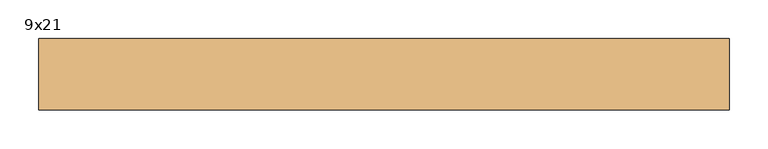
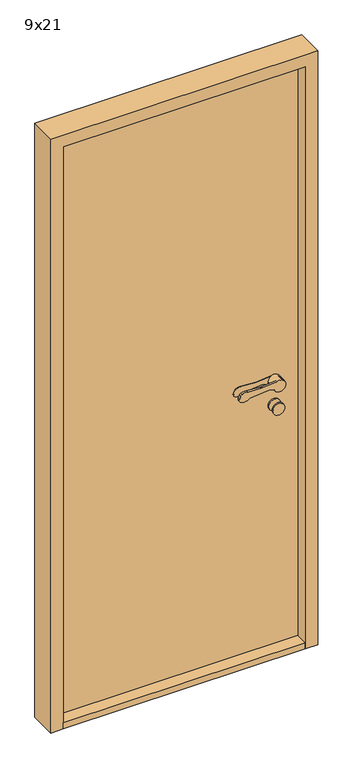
"""IFC4 building model written with IfcOpenShell, lengths in millimetres: door geometry, Innerdør Slett (Diplomat) : 9x21."""

from ifc_helpers import new_model, si_unit, point, frame, frame_2d, origin, origin_with_axes, place, context, project, spatial, polyline, circle_curve, trimmed, segment, composite_curve, outline, extrude, source, transform, mapped, element, save
from ifc_brep_helpers import plane_surface, cylinder_surface, revolved_surface, advanced_brep


def door_9x21_3038e881(model_context):
    return source(origin(), model_context, "Body", "SolidModel", [
        advanced_brep(
        [(343.9611305, 60.0, 949.1175955), (358.3841161, 60.0, 942.6204086), (396.379633, 60.0, 951.3474568), (367.2687793, 60.0, 969.1517356), (318.6891233, 60.0, 964.26032), (313.6202158, 60.0, 964.1804415), (268.8963175, 60.0, 967.2639242), (250.3175669, 60.0, 964.8810513), (245.505009, 60.0, 959.9624074), (241.8691983, 60.0, 951.8913379), (246.721536, 60.0, 938.7393398), (276.0476109, 60.0, 943.6260011), (338.8520664, 60.0, 949.9496913), (318.6891233, 67.1084716, 964.26032), (367.2687793, 67.1084716, 969.1517356), (356.379633, 67.1084716, 951.3474568), (358.3841161, 67.1084716, 942.6204086), (343.9611305, 67.1084716, 949.1175955), (338.8520664, 67.1084716, 949.9496913), (276.0476109, 67.1084716, 943.6260011), (246.721536, 67.1084716, 938.7393398), (241.8691983, 67.1084716, 951.8913379), (245.505009, 67.1084716, 959.9624074), (250.3175669, 67.1084716, 964.8810513), (268.8963175, 67.1084716, 967.2639242), (313.6202158, 67.1084716, 964.1804415), (396.379633, 95.0, 951.3474568), (356.379633, 95.0, 951.3474568)],
        [
            (0, 1),
            (1, 2, circle_curve(frame((376.379633, 60.0, 951.3474568), z_axis=(0.0, -1.0, 0.0), x_axis=(-1.0, 0.0, 0.0)), 20.0)),
            (2, 3, circle_curve(frame((376.379633, 60.0, 951.3474568), z_axis=(0.0, -1.0, 0.0), x_axis=(-1.0, 0.0, 0.0)), 20.0)),
            (3, 4),
            (4, 5, circle_curve(frame((315.683663, 60.0, 994.1093938), z_axis=(0.0, 1.0, 0.0), x_axis=(-0.9949691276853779, 0.0, -0.10018200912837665)), 30.0)),
            (5, 6),
            (6, 7, circle_curve(frame((263.2326797, 60.0, 937.8033877), z_axis=(0.0, -1.0, 0.0), x_axis=(-0.9949691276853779, 0.0, -0.10018200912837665)), 30.0)),
            (7, 8, circle_curve(frame((254.6226045, 60.0, 955.8551634), z_axis=(0.0, -1.0, 0.0), x_axis=(-0.9949691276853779, 0.0, -0.10018200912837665)), 10.0)),
            (8, 9),
            (9, 10, circle_curve(frame((250.9867937, 60.0, 947.7840939), z_axis=(0.0, -1.0, 0.0), x_axis=(-0.9949691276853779, 0.0, -0.10018200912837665)), 10.0)),
            (10, 11, circle_curve(frame((257.8569644, 60.0, 962.352734), z_axis=(0.0, -1.0, 0.0), x_axis=(-0.9949691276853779, 0.0, -0.10018200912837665)), 26.1072815)),
            (11, 12),
            (12, 0, circle_curve(frame((339.8538865, 60.0, 940.0), z_axis=(0.0, 1.0, 0.0), x_axis=(-0.9949691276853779, 0.0, -0.10018200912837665)), 10.0)),
            (13, 14),
            (14, 15, circle_curve(frame((376.379633, 67.1084716, 951.3474568), z_axis=(0.0, -1.0, 0.0), x_axis=(-1.0, 0.0, 0.0)), 20.0)),
            (15, 16, circle_curve(frame((376.379633, 67.1084716, 951.3474568), z_axis=(0.0, -1.0, 0.0), x_axis=(-1.0, 0.0, 0.0)), 20.0)),
            (16, 17),
            (17, 18, circle_curve(frame((339.8538865, 67.1084716, 940.0), z_axis=(0.0, -1.0, 0.0), x_axis=(-0.9949691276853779, 0.0, -0.10018200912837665)), 10.0)),
            (18, 19),
            (19, 20, circle_curve(frame((257.8569644, 67.1084716, 962.352734), z_axis=(0.0, 1.0, 0.0), x_axis=(-0.9949691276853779, 0.0, -0.10018200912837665)), 26.1072815)),
            (20, 21, circle_curve(frame((250.9867937, 67.1084716, 947.7840939), z_axis=(0.0, 1.0, 0.0), x_axis=(-0.9949691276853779, 0.0, -0.10018200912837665)), 10.0)),
            (21, 22),
            (22, 23, circle_curve(frame((254.6226045, 67.1084716, 955.8551634), z_axis=(0.0, 1.0, 0.0), x_axis=(-0.9949691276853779, 0.0, -0.10018200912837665)), 10.0)),
            (23, 24, circle_curve(frame((263.2326797, 67.1084716, 937.8033877), z_axis=(0.0, 1.0, 0.0), x_axis=(-0.9949691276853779, 0.0, -0.10018200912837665)), 30.0)),
            (24, 25),
            (25, 13, circle_curve(frame((315.683663, 67.1084716, 994.1093938), z_axis=(0.0, -1.0, 0.0), x_axis=(-0.9949691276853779, 0.0, -0.10018200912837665)), 30.0)),
            (3, 14),
            (13, 4),
            (16, 1),
            (0, 17),
            (12, 18),
            (11, 19),
            (10, 20),
            (9, 21),
            (8, 22),
            (7, 23),
            (6, 24),
            (5, 25),
            (26, 27, circle_curve(frame((376.379633, 95.0, 951.3474568), z_axis=(0.0, 1.0, 0.0), x_axis=(-1.0, 0.0, 0.0)), 20.0)),
            (27, 26, circle_curve(frame((376.379633, 95.0, 951.3474568), z_axis=(0.0, 1.0, 0.0), x_axis=(-1.0, 0.0, 0.0)), 20.0)),
            (26, 2),
            (15, 27),
        ],
        [
            plane_surface(frame((367.6960588, 60.0, 969.1947577), z_axis=(0.0, -1.0000000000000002, 0.0), x_axis=(0.9949691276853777, 0.0, 0.10018200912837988))),
            plane_surface(frame((367.6960588, 67.1084716, 969.1947577), z_axis=(0.0, 1.0000000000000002, 0.0), x_axis=(-0.9949691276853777, 0.0, -0.10018200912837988))),
            plane_surface(frame((318.6891233, 60.0, 964.26032), z_axis=(-0.10018200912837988, 0.0, 0.9949691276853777), x_axis=(0.0, 1.0, 0.0))),
            plane_surface(frame((376.9687366, 60.0, 934.2485115), z_axis=(-0.41072439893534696, 0.0, -0.91175954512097), x_axis=(0.0, 1.0, 0.0))),
            revolved_surface(polyline([(329.9041952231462, 67.1084716, 938.9981799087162), (329.9041952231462, 60.0, 938.9981799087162)]), (339.8538865, 67.1084716, 940.0), (0.0, 1.0, 0.0)),
            plane_surface(frame((338.8520664, 60.0, 949.9496913), z_axis=(0.10018200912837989, 0.0, -0.9949691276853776), x_axis=(0.0, 1.0, 0.0))),
            cylinder_surface(frame((257.8569644, 67.1084716, 962.352734), z_axis=(0.0, -1.0, 0.0), x_axis=(-0.9949691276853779, 0.0, -0.10018200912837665)), 26.1072815),
            cylinder_surface(frame((250.9867937, 67.1084716, 947.7840939), z_axis=(0.0, -1.0, 0.0), x_axis=(-0.9949691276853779, 0.0, -0.10018200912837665)), 10.0),
            plane_surface(frame((241.8691983, 60.0, 951.8913379), z_axis=(-0.9117595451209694, 0.0, 0.41072439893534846), x_axis=(0.0, 1.0, 0.0))),
            cylinder_surface(frame((254.6226045, 67.1084716, 955.8551634), z_axis=(0.0, -1.0, 0.0), x_axis=(-0.9949691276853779, 0.0, -0.10018200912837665)), 10.0),
            cylinder_surface(frame((263.2326797, 67.1084716, 937.8033877), z_axis=(0.0, -1.0, 0.0), x_axis=(-0.9949691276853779, 0.0, -0.10018200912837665)), 30.0),
            plane_surface(frame((268.8963175, 60.0, 967.2639242), z_axis=(0.06878157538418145, 0.0, 0.9976317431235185), x_axis=(0.0, 1.0, 0.0))),
            revolved_surface(polyline([(285.8345891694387, 67.1084716, 991.1039335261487), (285.8345891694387, 60.0, 991.1039335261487)]), (315.683663, 67.1084716, 994.1093938), (0.0, 1.0, 0.0)),
            plane_surface(frame((356.379633, 95.0, 951.3474568), z_axis=(0.0, 1.0, 0.0), x_axis=(0.0, 0.0, -1.0))),
            cylinder_surface(frame((376.379633, 95.0, 951.3474568), z_axis=(0.0, -1.0, 0.0), x_axis=(-1.0, 0.0, 0.0)), 20.0),
        ],
        [
            (0, [[1, 2, 3, 4, 5, 6, 7, 8, 9, 10, 11, 12, 13]]),
            (1, [[14, 15, 16, 17, 18, 19, 20, 21, 22, 23, 24, 25, 26]]),
            (2, [[-4, 27, -14, 28]]),
            (3, [[-17, 29, -1, 30]]),
            (4, [[31, -18, -30, -13]]),
            (5, [[32, -19, -31, -12]]),
            (6, [[33, -20, -32, -11]]),
            (7, [[34, -21, -33, -10]]),
            (8, [[35, -22, -34, -9]]),
            (9, [[36, -23, -35, -8]]),
            (10, [[37, -24, -36, -7]]),
            (11, [[38, -25, -37, -6]]),
            (12, [[-28, -26, -38, -5]]),
            (13, [[39, 40]]),
            (14, [[41, -2, -29, -16, 42, -39]]),
            (14, [[-42, -15, -27, -3, -41, -40]]),
        ],
    ),
        extrude(outline(composite_curve([segment(trimmed(circle_curve(frame_2d((866.3474568, 376.379633)), 20.0), [point((866.3474568, 396.379633))], [point((866.3474568, 356.379633))], False, "CARTESIAN"), True, "CONTINUOUS"), segment(trimmed(circle_curve(frame_2d((866.3474568, 376.379633)), 20.0), [point((866.3474568, 356.379633))], [point((866.3474568, 396.379633))], False, "CARTESIAN"), True, "CONTINUOUS")], self_intersect=False)), frame((0.0, 90.0, 0.0), z_axis=(0.0, 1.0, 0.0), x_axis=(0.0, 0.0, 1.0)), (0.0, 0.0, 1.0), 5.0),
        advanced_brep(
        [(343.9611305, 100.0, 949.1175955), (338.8520664, 100.0, 949.9496913), (276.0476109, 100.0, 943.6260011), (246.721536, 100.0, 938.7393398), (241.8691983, 100.0, 951.8913379), (245.505009, 100.0, 959.9624074), (250.3175669, 100.0, 964.8810513), (268.8963175, 100.0, 967.2639242), (313.6202158, 100.0, 964.1804415), (318.6891233, 100.0, 964.26032), (367.2687793, 100.0, 969.1517356), (396.379633, 100.0, 951.3474568), (358.3841161, 100.0, 942.6204086), (318.6891233, 92.8915284, 964.26032), (313.6202158, 92.8915284, 964.1804415), (268.8963175, 92.8915284, 967.2639242), (250.3175669, 92.8915284, 964.8810513), (245.505009, 92.8915284, 959.9624074), (241.8691983, 92.8915284, 951.8913379), (246.721536, 92.8915284, 938.7393398), (276.0476109, 92.8915284, 943.6260011), (338.8520664, 92.8915284, 949.9496913), (343.9611305, 92.8915284, 949.1175955), (358.3841161, 92.8915284, 942.6204086), (356.379633, 92.8915284, 951.3474568), (367.2687793, 92.8915284, 969.1517356), (396.379633, 65.0, 951.3474568), (356.379633, 65.0, 951.3474568)],
        [
            (0, 1, circle_curve(frame((339.8538865, 100.0, 940.0), z_axis=(0.0, -1.0, 0.0), x_axis=(-0.9949691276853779, 0.0, -0.10018200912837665)), 10.0)),
            (1, 2),
            (2, 3, circle_curve(frame((257.8569644, 100.0, 962.352734), z_axis=(0.0, 1.0, 0.0), x_axis=(-0.9949691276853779, 0.0, -0.10018200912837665)), 26.1072815)),
            (3, 4, circle_curve(frame((250.9867937, 100.0, 947.7840939), z_axis=(0.0, 1.0, 0.0), x_axis=(-0.9949691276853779, 0.0, -0.10018200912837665)), 10.0)),
            (4, 5),
            (5, 6, circle_curve(frame((254.6226045, 100.0, 955.8551634), z_axis=(0.0, 1.0, 0.0), x_axis=(-0.9949691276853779, 0.0, -0.10018200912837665)), 10.0)),
            (6, 7, circle_curve(frame((263.2326797, 100.0, 937.8033877), z_axis=(0.0, 1.0, 0.0), x_axis=(-0.9949691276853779, 0.0, -0.10018200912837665)), 30.0)),
            (7, 8),
            (8, 9, circle_curve(frame((315.683663, 100.0, 994.1093938), z_axis=(0.0, -1.0, 0.0), x_axis=(-0.9949691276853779, 0.0, -0.10018200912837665)), 30.0)),
            (9, 10),
            (10, 11, circle_curve(frame((376.379633, 100.0, 951.3474568), z_axis=(0.0, 1.0, 0.0), x_axis=(-1.0, 0.0, 0.0)), 20.0)),
            (11, 12, circle_curve(frame((376.379633, 100.0, 951.3474568), z_axis=(0.0, 1.0, 0.0), x_axis=(-1.0, 0.0, 0.0)), 20.0)),
            (12, 0),
            (13, 14, circle_curve(frame((315.683663, 92.8915284, 994.1093938), z_axis=(0.0, 1.0, 0.0), x_axis=(-0.9949691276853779, 0.0, -0.10018200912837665)), 30.0)),
            (14, 15),
            (15, 16, circle_curve(frame((263.2326797, 92.8915284, 937.8033877), z_axis=(0.0, -1.0, 0.0), x_axis=(-0.9949691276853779, 0.0, -0.10018200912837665)), 30.0)),
            (16, 17, circle_curve(frame((254.6226045, 92.8915284, 955.8551634), z_axis=(0.0, -1.0, 0.0), x_axis=(-0.9949691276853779, 0.0, -0.10018200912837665)), 10.0)),
            (17, 18),
            (18, 19, circle_curve(frame((250.9867937, 92.8915284, 947.7840939), z_axis=(0.0, -1.0, 0.0), x_axis=(-0.9949691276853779, 0.0, -0.10018200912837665)), 10.0)),
            (19, 20, circle_curve(frame((257.8569644, 92.8915284, 962.352734), z_axis=(0.0, -1.0, 0.0), x_axis=(-0.9949691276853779, 0.0, -0.10018200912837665)), 26.1072815)),
            (20, 21),
            (21, 22, circle_curve(frame((339.8538865, 92.8915284, 940.0), z_axis=(0.0, 1.0, 0.0), x_axis=(-0.9949691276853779, 0.0, -0.10018200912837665)), 10.0)),
            (22, 23),
            (23, 24, circle_curve(frame((376.379633, 92.8915284, 951.3474568), z_axis=(0.0, 1.0, 0.0), x_axis=(-1.0, 0.0, 0.0)), 20.0)),
            (24, 25, circle_curve(frame((376.379633, 92.8915284, 951.3474568), z_axis=(0.0, 1.0, 0.0), x_axis=(-1.0, 0.0, 0.0)), 20.0)),
            (25, 13),
            (9, 13),
            (25, 10),
            (22, 0),
            (12, 23),
            (21, 1),
            (20, 2),
            (19, 3),
            (18, 4),
            (17, 5),
            (16, 6),
            (15, 7),
            (14, 8),
            (26, 27, circle_curve(frame((376.379633, 65.0, 951.3474568), z_axis=(0.0, -1.0, 0.0), x_axis=(-1.0, 0.0, 0.0)), 20.0)),
            (27, 26, circle_curve(frame((376.379633, 65.0, 951.3474568), z_axis=(0.0, -1.0, 0.0), x_axis=(-1.0, 0.0, 0.0)), 20.0)),
            (27, 24),
            (11, 26),
        ],
        [
            plane_surface(frame((367.6960588, 100.0, 969.1947577), z_axis=(0.0, 1.0000000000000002, 0.0), x_axis=(0.9949691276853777, 0.0, 0.10018200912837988))),
            plane_surface(frame((367.6960588, 92.8915284, 969.1947577), z_axis=(0.0, -1.0000000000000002, 0.0), x_axis=(-0.9949691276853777, 0.0, -0.10018200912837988))),
            plane_surface(frame((318.6891233, 100.0, 964.26032), z_axis=(-0.10018200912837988, 0.0, 0.9949691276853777), x_axis=(0.0, -1.0, 0.0))),
            plane_surface(frame((376.9687366, 100.0, 934.2485115), z_axis=(-0.41072439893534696, 0.0, -0.91175954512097), x_axis=(0.0, -1.0, 0.0))),
            revolved_surface(polyline([(329.9041952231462, 92.8915284, 938.9981799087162), (329.9041952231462, 100.0, 938.9981799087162)]), (339.8538865, 92.8915284, 940.0), (0.0, -1.0, 0.0)),
            plane_surface(frame((338.8520664, 100.0, 949.9496913), z_axis=(0.10018200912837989, 0.0, -0.9949691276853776), x_axis=(0.0, -1.0, 0.0))),
            cylinder_surface(frame((257.8569644, 92.8915284, 962.352734), z_axis=(0.0, 1.0, 0.0), x_axis=(-0.9949691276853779, 0.0, -0.10018200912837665)), 26.1072815),
            cylinder_surface(frame((250.9867937, 92.8915284, 947.7840939), z_axis=(0.0, 1.0, 0.0), x_axis=(-0.9949691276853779, 0.0, -0.10018200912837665)), 10.0),
            plane_surface(frame((241.8691983, 100.0, 951.8913379), z_axis=(-0.9117595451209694, 0.0, 0.41072439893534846), x_axis=(0.0, -1.0, 0.0))),
            cylinder_surface(frame((254.6226045, 92.8915284, 955.8551634), z_axis=(0.0, 1.0, 0.0), x_axis=(-0.9949691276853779, 0.0, -0.10018200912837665)), 10.0),
            cylinder_surface(frame((263.2326797, 92.8915284, 937.8033877), z_axis=(0.0, 1.0, 0.0), x_axis=(-0.9949691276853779, 0.0, -0.10018200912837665)), 30.0),
            plane_surface(frame((268.8963175, 100.0, 967.2639242), z_axis=(0.06878157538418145, 0.0, 0.9976317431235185), x_axis=(0.0, -1.0, 0.0))),
            revolved_surface(polyline([(285.8345891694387, 92.8915284, 991.1039335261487), (285.8345891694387, 100.0, 991.1039335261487)]), (315.683663, 92.8915284, 994.1093938), (0.0, -1.0, 0.0)),
            plane_surface(frame((356.379633, 65.0, 951.3474568), z_axis=(0.0, -1.0, 0.0), x_axis=(0.0, 0.0, -1.0))),
            cylinder_surface(frame((376.379633, 65.0, 951.3474568), z_axis=(0.0, 1.0, 0.0), x_axis=(-1.0, 0.0, 0.0)), 20.0),
        ],
        [
            (0, [[1, 2, 3, 4, 5, 6, 7, 8, 9, 10, 11, 12, 13]]),
            (1, [[14, 15, 16, 17, 18, 19, 20, 21, 22, 23, 24, 25, 26]]),
            (2, [[27, -26, 28, -10]]),
            (3, [[29, -13, 30, -23]]),
            (4, [[-1, -29, -22, 31]]),
            (5, [[-2, -31, -21, 32]]),
            (6, [[-3, -32, -20, 33]]),
            (7, [[-4, -33, -19, 34]]),
            (8, [[-5, -34, -18, 35]]),
            (9, [[-6, -35, -17, 36]]),
            (10, [[-7, -36, -16, 37]]),
            (11, [[-8, -37, -15, 38]]),
            (12, [[-9, -38, -14, -27]]),
            (13, [[39, 40]]),
            (14, [[-40, 41, -24, -30, -12, 42]]),
            (14, [[-39, -42, -11, -28, -25, -41]]),
        ],
    ),
        extrude(outline(composite_curve([segment(trimmed(circle_curve(frame_2d((866.3474568, 376.379633)), 20.0), [point((866.3474568, 396.379633))], [point((866.3474568, 356.379633))], False, "CARTESIAN"), True, "CONTINUOUS"), segment(trimmed(circle_curve(frame_2d((866.3474568, 376.379633)), 20.0), [point((866.3474568, 356.379633))], [point((866.3474568, 396.379633))], False, "CARTESIAN"), True, "CONTINUOUS")], self_intersect=False)), frame((0.0, 65.0, 0.0), z_axis=(0.0, 1.0, 0.0), x_axis=(0.0, 0.0, 1.0)), (0.0, 0.0, 1.0), 5.0),
        extrude(outline(polyline([(456.379633, 53.0), (-349.620367, 53.0), (-349.620367, 145.0), (456.379633, 145.0), (456.379633, 53.0)])), origin_with_axes(), (0.0, 0.0, 1.0), 22.0),
        extrude(outline(polyline([(456.379633, 95.0), (-349.620367, 95.0), (-349.620367, 145.0), (456.379633, 145.0), (456.379633, 95.0)])), frame((0.0, 0.0, 22.0), z_axis=(0.0, 0.0, 1.0), x_axis=(1.0, 0.0, 0.0)), (0.0, 0.0, 1.0), 2031.0),
        extrude(outline(polyline([(0.0, -391.620367), (0.0, -349.620367), (2053.0, -349.620367), (2053.0, 456.379633), (0.0, 456.379633), (0.0, 498.379633), (2095.0, 498.379633), (2095.0, -391.620367), (0.0, -391.620367)])), frame((0.0, 53.0, 0.0), z_axis=(0.0, 1.0, 0.0), x_axis=(0.0, 0.0, 1.0)), (0.0, 0.0, 1.0), 92.0),
    ])


if __name__ == "__main__":
    model = new_model("IFC4")
    model_context = context("Model", 3, world=origin())
    ifc_project = project(units=[si_unit("LENGTHUNIT", "METRE", prefix="MILLI")], contexts=[model_context])
    site = spatial("IfcSite", under=ifc_project)
    building = spatial("IfcBuilding", under=site)
    placement = place(None, origin())
    door_9x21_shape = door_9x21_3038e881(model_context)
    element("IfcDoor", 1, ObjectType="Innerdør Slett (Diplomat) : 9x21", at=placement, inside=building, context=model_context, shape_type="MappedRepresentation", body=[
        mapped(door_9x21_shape, transform((0.0, 0.0, 0.0), x_axis=(1.0, 0.0, 0.0), y_axis=(0.0, 1.0, 0.0), z_axis=(0.0, 0.0, 1.0))),
    ])
    save(model, "model.ifc")
